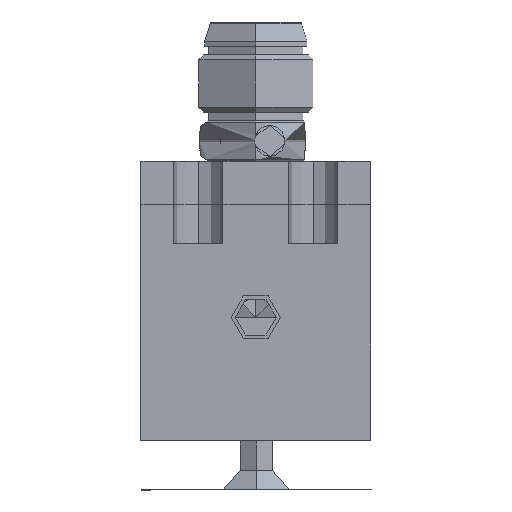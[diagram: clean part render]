
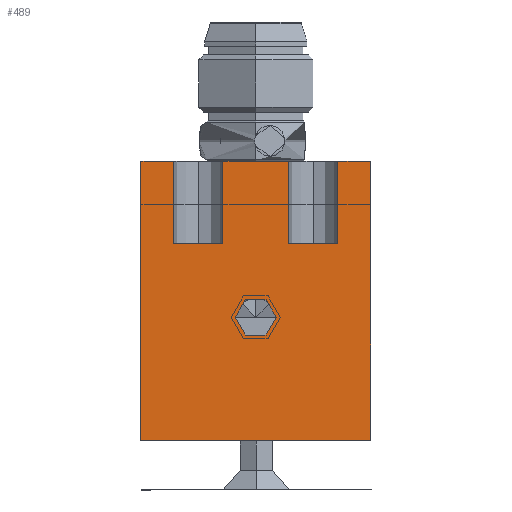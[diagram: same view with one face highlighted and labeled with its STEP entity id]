
A CAD part, left-side view. The second image highlights one B-rep face of the part: STEP entity #489.
In plain terms, the highlighted planar face has unit normal (-1, 0, 0) as drawn and (0, 0, -1) by its records, which use the part's own axes.
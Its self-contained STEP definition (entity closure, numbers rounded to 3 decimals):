
#489=ADVANCED_FACE('0:296',(#1028,#1029),#1030,.T.);
#1028=FACE_OUTER_BOUND('',#1626,.T.);
#1029=FACE_BOUND('',#1627,.T.);
#1030=PLANE('',#1628);
#1626=EDGE_LOOP('',(#2792,#2793,#2794,#2795,#2796,#2797,#2798,#2799,#2800,#2801,#2802,#2803));
#1627=EDGE_LOOP('',(#2804,#2805));
#1628=AXIS2_PLACEMENT_3D('',#2806,#2807,#2808);
#2792=ORIENTED_EDGE('',*,*,#3819,.T.);
#2793=ORIENTED_EDGE('',*,*,#3837,.F.);
#2794=ORIENTED_EDGE('',*,*,#3852,.T.);
#2795=ORIENTED_EDGE('',*,*,#3839,.F.);
#2796=ORIENTED_EDGE('',*,*,#3816,.T.);
#2797=ORIENTED_EDGE('',*,*,#3843,.F.);
#2798=ORIENTED_EDGE('',*,*,#3854,.T.);
#2799=ORIENTED_EDGE('',*,*,#3845,.F.);
#2800=ORIENTED_EDGE('',*,*,#3813,.T.);
#2801=ORIENTED_EDGE('',*,*,#3857,.F.);
#2802=ORIENTED_EDGE('',*,*,#3802,.F.);
#2803=ORIENTED_EDGE('',*,*,#3861,.T.);
#2804=ORIENTED_EDGE('',*,*,#3527,.T.);
#2805=ORIENTED_EDGE('',*,*,#3798,.T.);
#2806=CARTESIAN_POINT('',(0.,17.,-59.));
#2807=DIRECTION('',(0.,0.,-1.0));
#2808=DIRECTION('',(0.0,-1.0,0.));
#3527=EDGE_CURVE('0:680',#4228,#4226,#4229,.T.);
#3798=EDGE_CURVE('',#4226,#4228,#4637,.T.);
#3802=EDGE_CURVE('0:692',#4641,#4642,#4643,.T.);
#3813=EDGE_CURVE('0:722',#4661,#4659,#4662,.T.);
#3816=EDGE_CURVE('0:731',#4666,#4664,#4667,.T.);
#3819=EDGE_CURVE('0:740',#4671,#4669,#4672,.T.);
#3837=EDGE_CURVE('0:779',#4695,#4669,#4697,.T.);
#3839=EDGE_CURVE('0:782',#4666,#4699,#4700,.T.);
#3843=EDGE_CURVE('0:791',#4703,#4664,#4705,.T.);
#3845=EDGE_CURVE('0:794',#4661,#4707,#4708,.T.);
#3852=EDGE_CURVE('0:806',#4695,#4699,#4715,.F.);
#3854=EDGE_CURVE('0:809',#4703,#4707,#4717,.F.);
#3857=EDGE_CURVE('0:815',#4642,#4659,#4720,.T.);
#3861=EDGE_CURVE('0:821',#4641,#4671,#4724,.T.);
#4226=VERTEX_POINT('',#5379);
#4228=VERTEX_POINT('',#5382);
#4229=CIRCLE('',#5383,1.25);
#4637=CIRCLE('',#6357,1.25);
#4641=VERTEX_POINT('',#6361);
#4642=VERTEX_POINT('',#6362);
#4643=LINE('',#6363,#6364);
#4659=VERTEX_POINT('',#6388);
#4661=VERTEX_POINT('',#6391);
#4662=LINE('',#6392,#6393);
#4664=VERTEX_POINT('',#6396);
#4666=VERTEX_POINT('',#6399);
#4667=LINE('',#6400,#6401);
#4669=VERTEX_POINT('',#6404);
#4671=VERTEX_POINT('',#6407);
#4672=LINE('',#6408,#6409);
#4695=VERTEX_POINT('',#6443);
#4697=LINE('',#6446,#6447);
#4699=VERTEX_POINT('',#6449);
#4700=LINE('',#6450,#6451);
#4703=VERTEX_POINT('',#6455);
#4705=LINE('',#6458,#6459);
#4707=VERTEX_POINT('',#6461);
#4708=LINE('',#6462,#6463);
#4715=LINE('',#6473,#6474);
#4717=LINE('',#6476,#6477);
#4720=LINE('',#6481,#6482);
#4724=LINE('',#6487,#6488);
#5379=CARTESIAN_POINT('',(-1.25,9.5,-59.));
#5382=CARTESIAN_POINT('',(1.25,9.5,-59.));
#5383=AXIS2_PLACEMENT_3D('',#7583,#7584,#7585);
#6357=AXIS2_PLACEMENT_3D('',#7994,#7995,#7996);
#6361=CARTESIAN_POINT('',(7.,17.,-59.));
#6362=CARTESIAN_POINT('',(-7.,17.,-59.));
#6363=CARTESIAN_POINT('',(7.,17.,-59.));
#6364=VECTOR('',#8000,0.);
#6388=CARTESIAN_POINT('',(-7.,0.,-59.));
#6391=CARTESIAN_POINT('',(-5.,0.,-59.));
#6392=CARTESIAN_POINT('',(7.,0.,-59.));
#6393=VECTOR('',#8010,0.);
#6396=CARTESIAN_POINT('',(-2.,0.,-59.));
#6399=CARTESIAN_POINT('',(2.,0.,-59.));
#6400=CARTESIAN_POINT('',(7.,0.,-59.));
#6401=VECTOR('',#8013,0.);
#6404=CARTESIAN_POINT('',(5.,0.,-59.));
#6407=CARTESIAN_POINT('',(7.,0.,-59.));
#6408=CARTESIAN_POINT('',(7.,0.,-59.));
#6409=VECTOR('',#8016,0.);
#6443=CARTESIAN_POINT('',(5.,5.,-59.));
#6446=CARTESIAN_POINT('',(5.,8.5,-59.));
#6447=VECTOR('',#8029,0.);
#6449=CARTESIAN_POINT('',(2.,5.,-59.));
#6450=CARTESIAN_POINT('',(2.,8.5,-59.));
#6451=VECTOR('',#8030,0.);
#6455=CARTESIAN_POINT('',(-2.,5.,-59.));
#6458=CARTESIAN_POINT('',(-2.,8.5,-59.));
#6459=VECTOR('',#8033,0.);
#6461=CARTESIAN_POINT('',(-5.,5.,-59.));
#6462=CARTESIAN_POINT('',(-5.,8.5,-59.));
#6463=VECTOR('',#8034,0.);
#6473=CARTESIAN_POINT('',(0.,5.,-59.));
#6474=VECTOR('',#8038,0.);
#6476=CARTESIAN_POINT('',(0.,5.,-59.));
#6477=VECTOR('',#8039,0.);
#6481=CARTESIAN_POINT('',(-7.,17.,-59.));
#6482=VECTOR('',#8041,0.);
#6487=CARTESIAN_POINT('',(7.,17.,-59.));
#6488=VECTOR('',#8043,0.);
#7583=CARTESIAN_POINT('',(0.,9.5,-59.));
#7584=DIRECTION('',(0.,0.,1.0));
#7585=DIRECTION('',(-1.0,0.,0.));
#7994=CARTESIAN_POINT('',(0.,9.5,-59.));
#7995=DIRECTION('',(0.,0.,1.0));
#7996=DIRECTION('',(-1.0,0.,0.));
#8000=DIRECTION('',(-1.0,0.,0.));
#8010=DIRECTION('',(-1.0,0.,0.));
#8013=DIRECTION('',(-1.0,0.,0.));
#8016=DIRECTION('',(-1.0,0.,0.));
#8029=DIRECTION('',(0.,-1.0,0.));
#8030=DIRECTION('',(0.,1.0,0.));
#8033=DIRECTION('',(0.,-1.0,0.));
#8034=DIRECTION('',(0.,1.0,0.));
#8038=DIRECTION('',(1.0,0.,0.));
#8039=DIRECTION('',(1.0,0.,0.));
#8041=DIRECTION('',(0.,-1.0,0.));
#8043=DIRECTION('',(0.,-1.0,0.));
